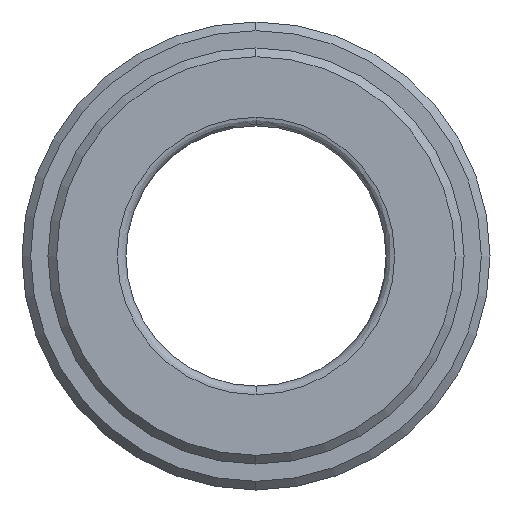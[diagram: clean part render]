
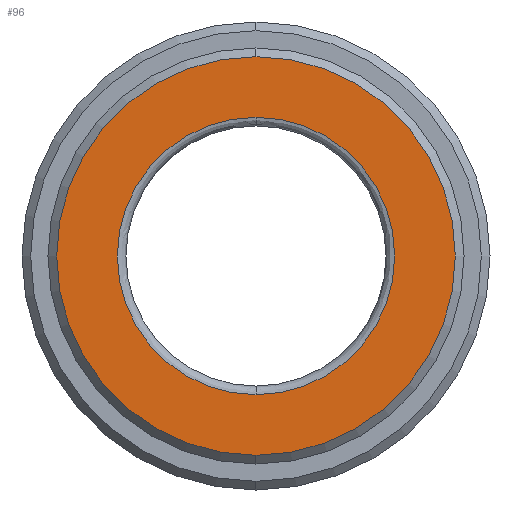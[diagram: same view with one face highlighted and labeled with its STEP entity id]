
A CAD part, front view. The second image highlights one B-rep face of the part: STEP entity #96.
In plain terms, the highlighted free-form (B-spline) face has degree [1, 1] with [2, 2] control points.
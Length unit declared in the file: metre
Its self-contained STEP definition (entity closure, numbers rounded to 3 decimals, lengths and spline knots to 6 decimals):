
#96 = ADVANCED_FACE( '', ( #157, #158 ), #159, .F. );
#157 = FACE_BOUND( '', #428, .T. );
#158 = FACE_OUTER_BOUND( '', #429, .T. );
#159 = B_SPLINE_SURFACE_WITH_KNOTS( '', 1, 1, ( ( #430, #431 ), ( #432, #433 ) ), .UNSPECIFIED., .F., .F., .F., ( 2, 2 ), ( 2, 2 ), ( 0., 1. ), ( 0., 1. ), .UNSPECIFIED. );
#428 = EDGE_LOOP( '', ( #687, #688 ) );
#429 = EDGE_LOOP( '', ( #689, #690 ) );
#430 = CARTESIAN_POINT( '', ( -0.023276, 0., -0.023276 ) );
#431 = CARTESIAN_POINT( '', ( 0.023276, 0., -0.023276 ) );
#432 = CARTESIAN_POINT( '', ( -0.023276, 0., 0.023276 ) );
#433 = CARTESIAN_POINT( '', ( 0.023276, 0., 0.023276 ) );
#687 = ORIENTED_EDGE( '', *, *, #852, .F. );
#688 = ORIENTED_EDGE( '', *, *, #855, .F. );
#689 = ORIENTED_EDGE( '', *, *, #860, .T. );
#690 = ORIENTED_EDGE( '', *, *, #861, .T. );
#852 = EDGE_CURVE( '', #951, #953, #954, .T. );
#855 = EDGE_CURVE( '', #953, #951, #957, .T. );
#860 = EDGE_CURVE( '', #964, #965, #966, .F. );
#861 = EDGE_CURVE( '', #965, #964, #967, .F. );
#951 = VERTEX_POINT( '', #1137 );
#953 = VERTEX_POINT( '', #1149 );
#954 = CIRCLE( '', #1150, 0.016 );
#957 = CIRCLE( '', #1163, 0.016 );
#964 = VERTEX_POINT( '', #1172 );
#965 = VERTEX_POINT( '', #1173 );
#966 = CIRCLE( '', #1174, 0.023 );
#967 = CIRCLE( '', #1175, 0.023 );
#1137 = CARTESIAN_POINT( '', ( 0., 0., 0.016 ) );
#1149 = CARTESIAN_POINT( '', ( 0., 0., -0.016 ) );
#1150 = AXIS2_PLACEMENT_3D( '', #1343, #1344, #1345 );
#1163 = AXIS2_PLACEMENT_3D( '', #1349, #1350, #1351 );
#1172 = CARTESIAN_POINT( '', ( 0., 0., -0.023 ) );
#1173 = CARTESIAN_POINT( '', ( 0., 0., 0.023 ) );
#1174 = AXIS2_PLACEMENT_3D( '', #1360, #1361, #1362 );
#1175 = AXIS2_PLACEMENT_3D( '', #1363, #1364, #1365 );
#1343 = CARTESIAN_POINT( '', ( 0., 0., 0. ) );
#1344 = DIRECTION( '', ( 0., -1., 0. ) );
#1345 = DIRECTION( '', ( 1., 0., 0. ) );
#1349 = CARTESIAN_POINT( '', ( 0., 0., 0. ) );
#1350 = DIRECTION( '', ( 0., -1., 0. ) );
#1351 = DIRECTION( '', ( 1., 0., 0. ) );
#1360 = CARTESIAN_POINT( '', ( 0., 0., 0. ) );
#1361 = DIRECTION( '', ( 0., 1., 0. ) );
#1362 = DIRECTION( '', ( 0., 0., 1. ) );
#1363 = CARTESIAN_POINT( '', ( 0., 0., 0. ) );
#1364 = DIRECTION( '', ( 0., 1., 0. ) );
#1365 = DIRECTION( '', ( 0., 0., 1. ) );
